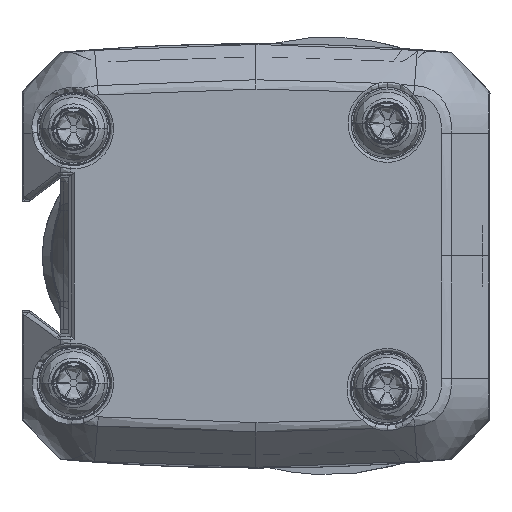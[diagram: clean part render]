
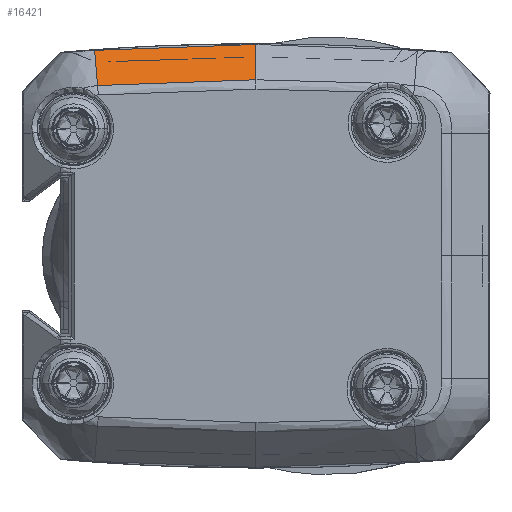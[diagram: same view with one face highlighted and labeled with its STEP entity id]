
A CAD part, left-side view. The second image highlights one B-rep face of the part: STEP entity #16421.
In plain terms, the highlighted free-form (B-spline) face has degree [3, 3] with [6, 4] control points.
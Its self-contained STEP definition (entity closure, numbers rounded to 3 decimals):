
#5768=CARTESIAN_POINT('',(11.288,-0.495,
254.67));
#5794=CARTESIAN_POINT('',(11.288,-0.495,
254.67));
#5795=CARTESIAN_POINT('',(11.288,2.893,254.67));
#5796=CARTESIAN_POINT('',(11.166,6.282,254.67));
#5797=CARTESIAN_POINT('',(10.92,9.66,254.67));
#6214=DIRECTION('',(0.695,0.057,-0.717));
#6215=VECTOR('',#6214,3.246);
#6216=CARTESIAN_POINT('',(10.92,9.66,254.67));
#6217=LINE('',#6216,#6215);
#7333=DIRECTION('',(-0.697,0.,0.717));
#7334=VECTOR('',#7333,3.247);
#7335=CARTESIAN_POINT('',(13.55,-0.495,
252.341));
#7336=LINE('',#7335,#7334);
#7357=CARTESIAN_POINT('',(13.175,9.846,252.342));
#7358=CARTESIAN_POINT('',(13.425,6.406,252.342));
#7359=CARTESIAN_POINT('',(13.55,2.955,252.341));
#7360=CARTESIAN_POINT('',(13.55,-0.495,
252.341));
#7366=CARTESIAN_POINT('',(13.175,9.846,252.342));
#7374=CARTESIAN_POINT('',(13.55,-0.495,
252.341));
#8418=VERTEX_POINT('',#5768);
#8420=VERTEX_POINT('',#5797);
#8425=VERTEX_POINT('',#7374);
#8427=VERTEX_POINT('',#7366);
#16389=CARTESIAN_POINT('',(13.595,-0.703,
252.294));
#16390=CARTESIAN_POINT('',(12.811,-0.701,
253.101));
#16391=CARTESIAN_POINT('',(12.026,-0.7,
253.908));
#16392=CARTESIAN_POINT('',(11.242,-0.699,
254.716));
#16393=CARTESIAN_POINT('',(13.595,-0.634,
252.294));
#16394=CARTESIAN_POINT('',(12.811,-0.633,
253.101));
#16395=CARTESIAN_POINT('',(12.027,-0.632,
253.908));
#16396=CARTESIAN_POINT('',(11.242,-0.631,
254.716));
#16397=CARTESIAN_POINT('',(13.598,2.887,252.294));
#16398=CARTESIAN_POINT('',(12.813,2.866,253.101));
#16399=CARTESIAN_POINT('',(12.029,2.845,253.908));
#16400=CARTESIAN_POINT('',(11.245,2.824,254.716));
#16401=CARTESIAN_POINT('',(13.468,6.477,252.294));
#16402=CARTESIAN_POINT('',(12.684,6.433,253.101));
#16403=CARTESIAN_POINT('',(11.901,6.39,253.908));
#16404=CARTESIAN_POINT('',(11.117,6.347,254.716));
#16405=CARTESIAN_POINT('',(13.211,9.988,252.294));
#16406=CARTESIAN_POINT('',(12.429,9.923,253.101));
#16407=CARTESIAN_POINT('',(11.647,9.858,253.908));
#16408=CARTESIAN_POINT('',(10.865,9.793,254.716));
#16409=CARTESIAN_POINT('',(13.206,10.057,252.294));
#16410=CARTESIAN_POINT('',(12.424,9.991,253.101));
#16411=CARTESIAN_POINT('',(11.642,9.926,253.908));
#16412=CARTESIAN_POINT('',(10.86,9.86,254.716));
#16413=B_SPLINE_SURFACE_WITH_KNOTS('',3,3,((#16389,#16390,#16391,#16392),
(#16393,#16394,#16395,#16396),(#16397,#16398,#16399,#16400),(#16401,#16402,
#16403,#16404),(#16405,#16406,#16407,#16408),(#16409,#16410,#16411,#16412)),
.UNSPECIFIED.,.F.,.F.,.F.,(4,1,1,4),(4,4),(-0.02,0.,1.,1.02),
(0.001,0.92),.UNSPECIFIED.);
#16414=ORIENTED_EDGE('',*,*,#10535,.T.);
#16415=ORIENTED_EDGE('',*,*,#11922,.T.);
#16417=ORIENTED_EDGE('',*,*,#16416,.T.);
#16418=ORIENTED_EDGE('',*,*,#16327,.T.);
#16419=EDGE_LOOP('',(#16414,#16415,#16417,#16418));
#16420=FACE_OUTER_BOUND('',#16419,.F.);
#16421=ADVANCED_FACE('',(#16420),#16413,.T.);
#5798=B_SPLINE_CURVE_WITH_KNOTS('',3,(#5794,#5795,#5796,#5797),.UNSPECIFIED.,
.F.,.F.,(4,4),(0.,1.),.UNSPECIFIED.);
#7361=B_SPLINE_CURVE_WITH_KNOTS('',3,(#7357,#7358,#7359,#7360),.UNSPECIFIED.,
.F.,.F.,(4,4),(0.,1.),.UNSPECIFIED.);
#10535=EDGE_CURVE('',#8418,#8420,#5798,.T.);
#11922=EDGE_CURVE('',#8420,#8427,#6217,.T.);
#16327=EDGE_CURVE('',#8425,#8418,#7336,.T.);
#16416=EDGE_CURVE('',#8427,#8425,#7361,.T.);
